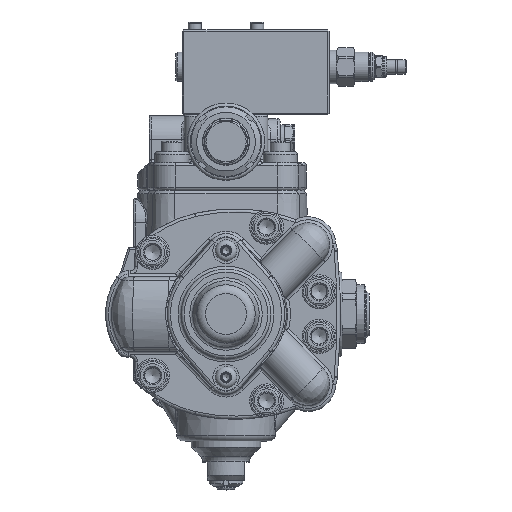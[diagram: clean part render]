
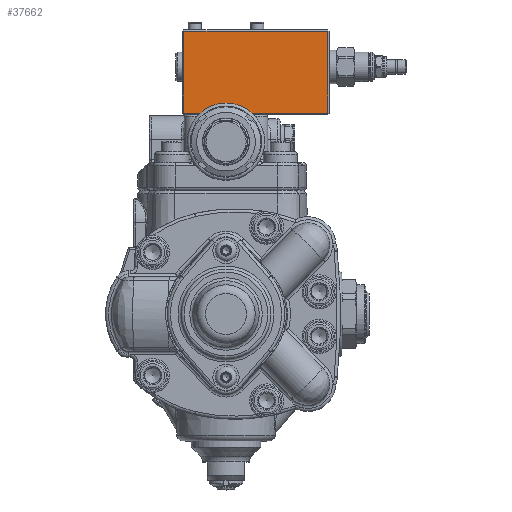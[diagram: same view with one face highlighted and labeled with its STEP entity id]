
A CAD part, top view. The second image highlights one B-rep face of the part: STEP entity #37662.
In plain terms, the highlighted planar face has unit normal (0, 0, 1).
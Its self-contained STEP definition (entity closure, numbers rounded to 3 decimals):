
#1252=PLANE('',#40150);
#2420=FACE_OUTER_BOUND('',#4655,.T.);
#4655=EDGE_LOOP('',(#24547,#24548,#24549,#24550));
#10071=LINE('',#55526,#12231);
#10073=LINE('',#55530,#12233);
#10076=LINE('',#55534,#12236);
#10082=LINE('',#55545,#12242);
#12231=VECTOR('',#44807,10.);
#12233=VECTOR('',#44813,10.);
#12236=VECTOR('',#44818,10.);
#12242=VECTOR('',#44834,10.);
#14586=VERTEX_POINT('',#55498);
#14587=VERTEX_POINT('',#55502);
#14592=VERTEX_POINT('',#55516);
#14594=VERTEX_POINT('',#55521);
#18334=EDGE_CURVE('',#14594,#14592,#10071,.T.);
#18336=EDGE_CURVE('',#14587,#14594,#10073,.T.);
#18339=EDGE_CURVE('',#14592,#14586,#10076,.T.);
#18345=EDGE_CURVE('',#14586,#14587,#10082,.T.);
#24547=ORIENTED_EDGE('',*,*,#18334,.F.);
#24548=ORIENTED_EDGE('',*,*,#18336,.F.);
#24549=ORIENTED_EDGE('',*,*,#18345,.F.);
#24550=ORIENTED_EDGE('',*,*,#18339,.F.);
#37662=ADVANCED_FACE('',(#2420),#1252,.T.);
#40150=AXIS2_PLACEMENT_3D('',#55559,#44851,#44852);
#44807=DIRECTION('',(1.,0.,0.));
#44813=DIRECTION('',(0.,1.,0.));
#44818=DIRECTION('',(0.,-1.,0.));
#44834=DIRECTION('',(-1.,0.,0.));
#44851=DIRECTION('center_axis',(0.,0.,
1.));
#44852=DIRECTION('ref_axis',(0.,1.,0.));
#55498=CARTESIAN_POINT('',(194.297,120.193,74.283));
#55502=CARTESIAN_POINT('',(101.297,120.193,74.283));
#55516=CARTESIAN_POINT('',(194.297,173.193,74.283));
#55521=CARTESIAN_POINT('',(101.297,173.193,74.283));
#55526=CARTESIAN_POINT('',(124.047,173.193,74.283));
#55530=CARTESIAN_POINT('',(101.297,174.193,74.283));
#55534=CARTESIAN_POINT('',(194.297,174.193,74.283));
#55545=CARTESIAN_POINT('',(124.047,120.193,74.283));
#55559=CARTESIAN_POINT('Origin',(100.297,174.193,74.283));
